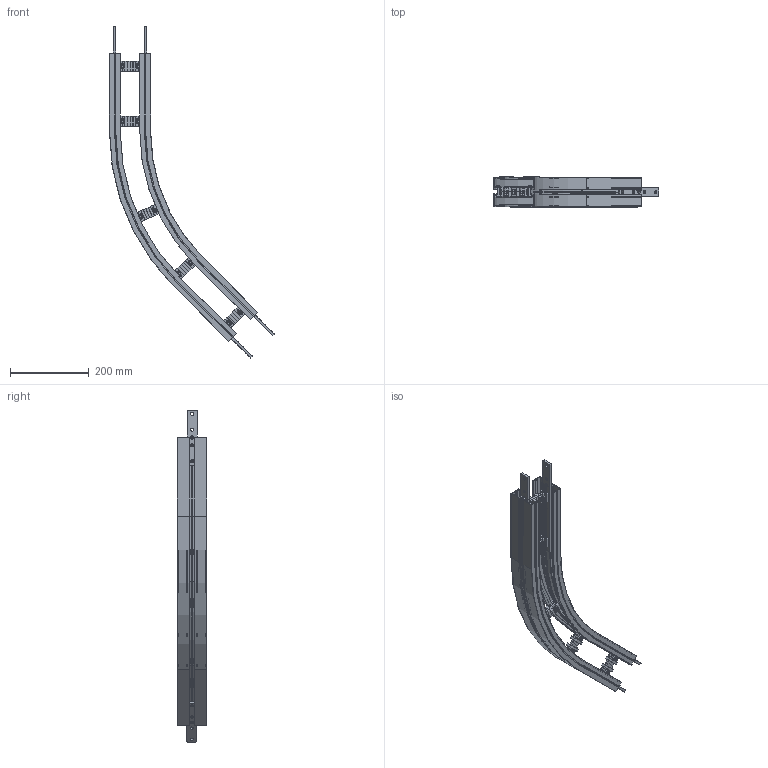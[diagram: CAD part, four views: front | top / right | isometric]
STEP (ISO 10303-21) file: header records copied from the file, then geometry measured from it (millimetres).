
FILE_DESCRIPTION (( 'STEP AP214' ), '1' );
FILE_NAME ('FCHB-45R500.STEP', '2012-04-04T11:42:48', ( 'gs' ), ( 'Microsoft' ), 'SwSTEP 2.0', 'SolidWorks 2011', '' );
FILE_SCHEMA (( 'AUTOMOTIVE_DESIGN' ));
Length unit declared in the file: millimetre
Products named in the file (8): Clamp Flex_FCHB - CLP; FACS-25.éclisse larg 25mm_Default; Ecrou bague frein; vis CHC  lg23 ; Clamp_FC; FASR-25 U_45R500; FCHB R500_45R500; FCHB-45R500
Assembly tree (18 placements, depth 3):
  FCHB-45R500
    FASR-25 U_45R500  x2
    FACS-25.éclisse larg 25mm_Default  x4
    Clamp Flex_FCHB - CLP  x5
      Clamp_FC
      Ecrou bague frein
      vis CHC  lg23 
    FCHB R500_45R500
Bounding box: 419.92 x 76.3 x 844.52 mm (x, y, z)
Volume: 942200.7 mm3; surface area: 920106 mm2
Topology: 40 solids, 40 shells, 2275 faces, 5659 edges, 3274 vertices
Faces by surface type: plane 918, cylinder 844, torus 181, sphere 140, bspline 120, cone 72
Entity records: 22262 total; most frequent: CARTESIAN_POINT 4031, DIRECTION 3922, ORIENTED_EDGE 3590, EDGE_CURVE 1795, AXIS2_PLACEMENT_3D 1418, VERTEX_POINT 1087, LINE 1086, VECTOR 1086
